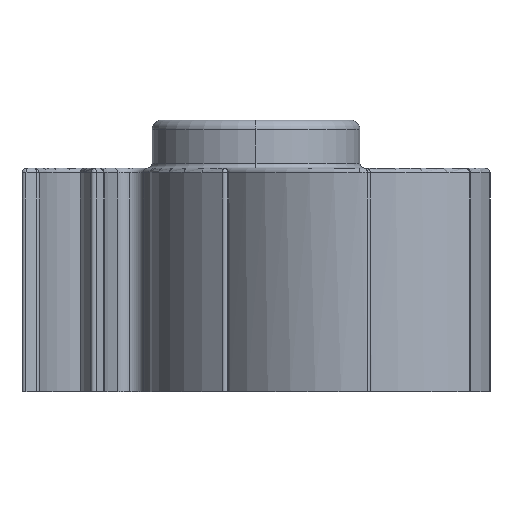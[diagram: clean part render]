
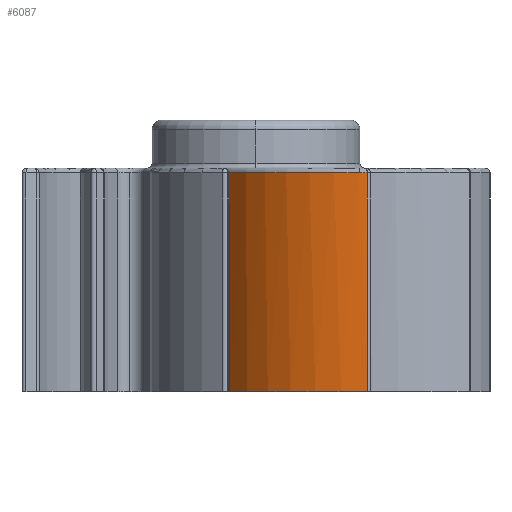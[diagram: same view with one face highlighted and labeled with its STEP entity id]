
A CAD part, left-side view. The second image highlights one B-rep face of the part: STEP entity #6087.
In plain terms, the highlighted cylindrical face has radius 10 mm (diameter 20 mm), a partial arc.
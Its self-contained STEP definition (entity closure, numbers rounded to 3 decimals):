
#159 = AXIS2_PLACEMENT_3D ( 'NONE', #1541, #3602, #5635 ) ;
#313 = ORIENTED_EDGE ( 'NONE', *, *, #6109, .T. ) ;
#505 = DIRECTION ( 'NONE',  ( 1., 0., 0. ) ) ;
#666 = CARTESIAN_POINT ( 'NONE',  ( -13.122, -6.973, -1.6 ) ) ;
#1004 = CYLINDRICAL_SURFACE ( 'NONE', #2199, 10. ) ;
#1389 = CARTESIAN_POINT ( 'NONE',  ( -7.638, 2.482, -1.6 ) ) ;
#1463 = EDGE_CURVE ( 'NONE', #1617, #5816, #5603, .T. ) ;
#1472 = CARTESIAN_POINT ( 'NONE',  ( -13.135, -6.447, 12.1 ) ) ;
#1502 = VECTOR ( 'NONE', #3884, 1000. ) ;
#1505 = CIRCLE ( 'NONE', #5258, 10. ) ;
#1541 = CARTESIAN_POINT ( 'NONE',  ( -3.135, -6.447, 12.1 ) ) ;
#1574 = EDGE_CURVE ( 'NONE', #1617, #4913, #6429, .T. ) ;
#1617 = VERTEX_POINT ( 'NONE', #1389 ) ;
#1619 = CARTESIAN_POINT ( 'NONE',  ( -3.135, -6.447, 12.1 ) ) ;
#1689 = DIRECTION ( 'NONE',  ( 0., 0., 1. ) ) ;
#1695 = DIRECTION ( 'NONE',  ( 0., 0., 1. ) ) ;
#1824 = CARTESIAN_POINT ( 'NONE',  ( -7.638, 2.482, -1.6 ) ) ;
#1882 = CARTESIAN_POINT ( 'NONE',  ( -13.122, -6.973, 12.1 ) ) ;
#2153 = EDGE_CURVE ( 'NONE', #6059, #4913, #1505, .T. ) ;
#2199 = AXIS2_PLACEMENT_3D ( 'NONE', #3064, #5102, #505 ) ;
#2276 = EDGE_LOOP ( 'NONE', ( #4325, #313, #4999, #4122, #3223 ) ) ;
#2547 = VECTOR ( 'NONE', #1695, 1000. ) ;
#2712 = AXIS2_PLACEMENT_3D ( 'NONE', #6289, #1689, #3746 ) ;
#3064 = CARTESIAN_POINT ( 'NONE',  ( -3.135, -6.447, -1.6 ) ) ;
#3223 = ORIENTED_EDGE ( 'NONE', *, *, #1463, .T. ) ;
#3602 = DIRECTION ( 'NONE',  ( 0., 0., -1. ) ) ;
#3672 = DIRECTION ( 'NONE',  ( 0., 0., -1. ) ) ;
#3746 = DIRECTION ( 'NONE',  ( -1., 0., 0. ) ) ;
#3821 = CARTESIAN_POINT ( 'NONE',  ( -7.638, 2.482, 12.1 ) ) ;
#3875 = VERTEX_POINT ( 'NONE', #1882 ) ;
#3884 = DIRECTION ( 'NONE',  ( 0., 0., 1. ) ) ;
#4122 = ORIENTED_EDGE ( 'NONE', *, *, #1574, .F. ) ;
#4205 = EDGE_CURVE ( 'NONE', #5816, #3875, #4262, .T. ) ;
#4262 = LINE ( 'NONE', #6296, #2547 ) ;
#4325 = ORIENTED_EDGE ( 'NONE', *, *, #4205, .T. ) ;
#4913 = VERTEX_POINT ( 'NONE', #3821 ) ;
#4999 = ORIENTED_EDGE ( 'NONE', *, *, #2153, .T. ) ;
#5102 = DIRECTION ( 'NONE',  ( 0., 0., 1. ) ) ;
#5258 = AXIS2_PLACEMENT_3D ( 'NONE', #1619, #3672, #5718 ) ;
#5601 = FACE_OUTER_BOUND ( 'NONE', #2276, .T. ) ;
#5603 = CIRCLE ( 'NONE', #2712, 10. ) ;
#5635 = DIRECTION ( 'NONE',  ( -1., 0., 0. ) ) ;
#5718 = DIRECTION ( 'NONE',  ( -1., 0., 0. ) ) ;
#5816 = VERTEX_POINT ( 'NONE', #666 ) ;
#5949 = CIRCLE ( 'NONE', #159, 10. ) ;
#6059 = VERTEX_POINT ( 'NONE', #1472 ) ;
#6087 = ADVANCED_FACE ( 'NONE', ( #5601 ), #1004, .T. ) ;
#6109 = EDGE_CURVE ( 'NONE', #3875, #6059, #5949, .T. ) ;
#6289 = CARTESIAN_POINT ( 'NONE',  ( -3.135, -6.447, -1.6 ) ) ;
#6296 = CARTESIAN_POINT ( 'NONE',  ( -13.122, -6.973, -1.6 ) ) ;
#6429 = LINE ( 'NONE', #1824, #1502 ) ;
